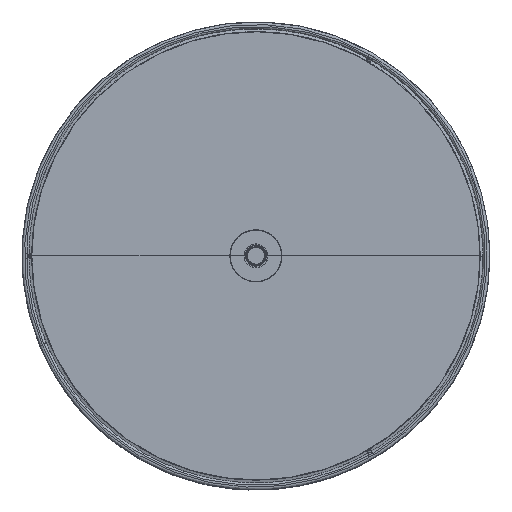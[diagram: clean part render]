
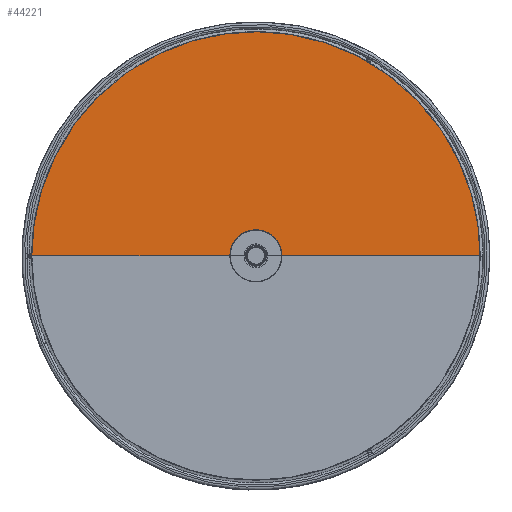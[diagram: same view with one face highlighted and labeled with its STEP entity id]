
A CAD part, top view. The second image highlights one B-rep face of the part: STEP entity #44221.
In plain terms, the highlighted free-form (B-spline) face has degree [1, 2] with [2, 5] control points.
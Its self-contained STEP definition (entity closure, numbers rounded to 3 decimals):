
#431 = CARTESIAN_POINT ( 'NONE',  ( 0., 9., 488.243 ) ) ;
#1333 = B_SPLINE_CURVE_WITH_KNOTS ( 'NONE', 1,
 ( #65074, #89492 ),
 .UNSPECIFIED., .F., .F.,
 ( 2, 2 ),
 ( 167.334, 330.734 ),
 .UNSPECIFIED. ) ;
#5211 = CARTESIAN_POINT ( 'NONE',  ( -9., 0., 488.243 ) ) ;
#6413 = CARTESIAN_POINT ( 'NONE',  ( -9., 0., 488.243 ) ) ;
#11405 = ORIENTED_EDGE ( 'NONE', *, *, #66286, .T. ) ;
#11434 =( BOUNDED_SURFACE ( )  B_SPLINE_SURFACE ( 1, 2, ( 
 ( #83505, #68282, #12124, #40116, #5211 ),
 ( #33264, #61375, #82612, #12581, #40559 ) ),
 .UNSPECIFIED., .F., .F., .T. ) 
 B_SPLINE_SURFACE_WITH_KNOTS ( ( 2, 2 ),
 ( 3, 2, 3 ),
 ( 167.334, 330.834 ),
 ( 541.925, 812.888, 1083.85 ),
 .UNSPECIFIED. ) 
 GEOMETRIC_REPRESENTATION_ITEM ( )  RATIONAL_B_SPLINE_SURFACE ( (
 ( 1., 0.707, 1., 0.707, 1.),
 ( 1., 0.707, 1., 0.707, 1.) ) ) 
 REPRESENTATION_ITEM ( '' )  SURFACE ( )  );
#11949 = VERTEX_POINT ( 'NONE', #87590 ) ;
#12101 = CARTESIAN_POINT ( 'NONE',  ( -172.4, 0., 488.243 ) ) ;
#12124 = CARTESIAN_POINT ( 'NONE',  ( 0., 9., 488.243 ) ) ;
#12581 = CARTESIAN_POINT ( 'NONE',  ( -172.5, 172.5, 488.243 ) ) ;
#18628 = EDGE_CURVE ( 'NONE', #65086, #65234, #80575, .T. ) ;
#24601 = CARTESIAN_POINT ( 'NONE',  ( 9., 0., 488.243 ) ) ;
#26593 = CARTESIAN_POINT ( 'NONE',  ( 9., 0., 488.243 ) ) ;
#31955 = ORIENTED_EDGE ( 'NONE', *, *, #86053, .F. ) ;
#32337 = CARTESIAN_POINT ( 'NONE',  ( -172.4, 172.4, 488.243 ) ) ;
#33244 = CARTESIAN_POINT ( 'NONE',  ( 0., 172.4, 488.243 ) ) ;
#33264 = CARTESIAN_POINT ( 'NONE',  ( 172.5, 0., 488.243 ) ) ;
#34377 = ORIENTED_EDGE ( 'NONE', *, *, #18628, .F. ) ;
#40116 = CARTESIAN_POINT ( 'NONE',  ( -9., 9., 488.243 ) ) ;
#40559 = CARTESIAN_POINT ( 'NONE',  ( -172.5, 0., 488.243 ) ) ;
#40764 = EDGE_CURVE ( 'NONE', #65234, #57331, #55884, .T. ) ;
#42205 = CARTESIAN_POINT ( 'NONE',  ( 9., 9., 488.243 ) ) ;
#44221 = ADVANCED_FACE ( 'NONE', ( #74735 ), #11434, .T. ) ;
#44839 = CARTESIAN_POINT ( 'NONE',  ( 172.4, 0., 488.243 ) ) ;
#55884 = B_SPLINE_CURVE_WITH_KNOTS ( 'NONE', 1,
 ( #56483, #26593 ),
 .UNSPECIFIED., .F., .F.,
 ( 2, 2 ),
 ( -330.734, -167.334 ),
 .UNSPECIFIED. ) ;
#56106 = CARTESIAN_POINT ( 'NONE',  ( -9., 9., 488.243 ) ) ;
#56460 =( BOUNDED_CURVE ( )  B_SPLINE_CURVE ( 2, ( #6413, #56106, #431, #42205, #57017 ),
 .UNSPECIFIED., .F., .F. ) 
 B_SPLINE_CURVE_WITH_KNOTS ( ( 3, 2, 3 ),
 ( -36., -18., 0. ),
 .UNSPECIFIED. ) 
 CURVE ( )  GEOMETRIC_REPRESENTATION_ITEM ( )  RATIONAL_B_SPLINE_CURVE ( ( 1., 0.707, 1., 0.707, 1. ) ) 
 REPRESENTATION_ITEM ( '' )  );
#56483 = CARTESIAN_POINT ( 'NONE',  ( 172.4, 0., 488.243 ) ) ;
#57017 = CARTESIAN_POINT ( 'NONE',  ( 9., 0., 488.243 ) ) ;
#57331 = VERTEX_POINT ( 'NONE', #24601 ) ;
#61375 = CARTESIAN_POINT ( 'NONE',  ( 172.5, 172.5, 488.243 ) ) ;
#65074 = CARTESIAN_POINT ( 'NONE',  ( -9., 0., 488.243 ) ) ;
#65086 = VERTEX_POINT ( 'NONE', #71167 ) ;
#65234 = VERTEX_POINT ( 'NONE', #44839 ) ;
#65999 = EDGE_LOOP ( 'NONE', ( #31955, #11405, #89991, #34377 ) ) ;
#66286 = EDGE_CURVE ( 'NONE', #11949, #57331, #56460, .T. ) ;
#67805 = CARTESIAN_POINT ( 'NONE',  ( 172.4, 172.4, 488.243 ) ) ;
#68282 = CARTESIAN_POINT ( 'NONE',  ( 9., 9., 488.243 ) ) ;
#71167 = CARTESIAN_POINT ( 'NONE',  ( -172.4, 0., 488.243 ) ) ;
#74735 = FACE_OUTER_BOUND ( 'NONE', #65999, .T. ) ;
#80575 =( BOUNDED_CURVE ( )  B_SPLINE_CURVE ( 2, ( #12101, #32337, #33244, #67805, #89503 ),
 .UNSPECIFIED., .F., .T. ) 
 B_SPLINE_CURVE_WITH_KNOTS ( ( 3, 2, 3 ),
 ( 0., 270.805, 541.61 ),
 .UNSPECIFIED. ) 
 CURVE ( )  GEOMETRIC_REPRESENTATION_ITEM ( )  RATIONAL_B_SPLINE_CURVE ( ( 1., 0.707, 1., 0.707, 1. ) ) 
 REPRESENTATION_ITEM ( '' )  );
#82612 = CARTESIAN_POINT ( 'NONE',  ( 0., 172.5, 488.243 ) ) ;
#83505 = CARTESIAN_POINT ( 'NONE',  ( 9., 0., 488.243 ) ) ;
#86053 = EDGE_CURVE ( 'NONE', #11949, #65086, #1333, .T. ) ;
#87590 = CARTESIAN_POINT ( 'NONE',  ( -9., 0., 488.243 ) ) ;
#89492 = CARTESIAN_POINT ( 'NONE',  ( -172.4, 0., 488.243 ) ) ;
#89503 = CARTESIAN_POINT ( 'NONE',  ( 172.4, 0., 488.243 ) ) ;
#89991 = ORIENTED_EDGE ( 'NONE', *, *, #40764, .F. ) ;
